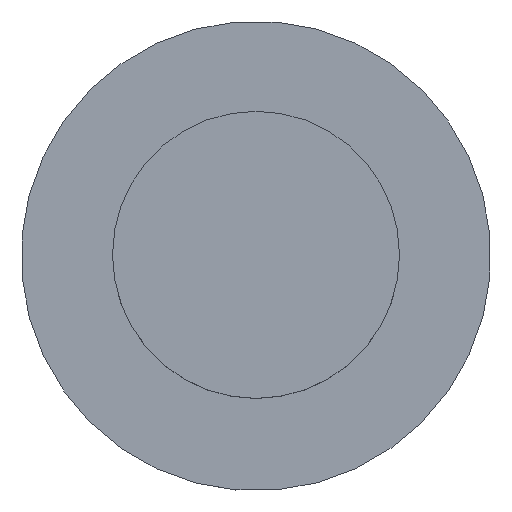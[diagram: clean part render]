
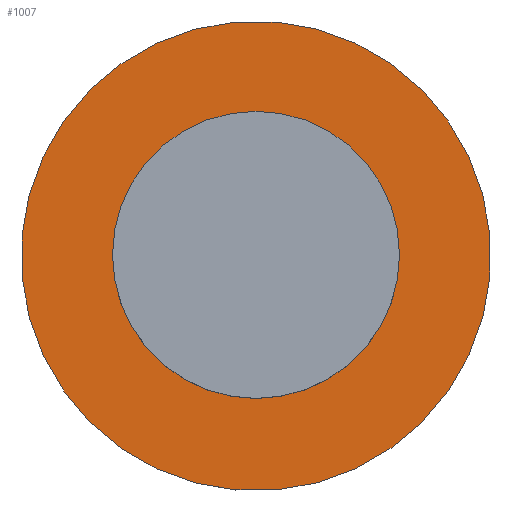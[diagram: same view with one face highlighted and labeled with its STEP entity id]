
A CAD part, top view. The second image highlights one B-rep face of the part: STEP entity #1007.
In plain terms, the highlighted planar face has unit normal (0, 0, 1).
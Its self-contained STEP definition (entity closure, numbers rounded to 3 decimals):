
#31=FACE_BOUND('',#170,.T.);
#49=PLANE('',#1152);
#103=FACE_OUTER_BOUND('',#169,.T.);
#169=EDGE_LOOP('',(#846));
#170=EDGE_LOOP('',(#847));
#364=CIRCLE('',#1150,13.);
#365=CIRCLE('',#1153,90.);
#458=VERTEX_POINT('',#1746);
#459=VERTEX_POINT('',#1752);
#588=EDGE_CURVE('',#458,#458,#364,.T.);
#590=EDGE_CURVE('',#459,#459,#365,.T.);
#846=ORIENTED_EDGE('',*,*,#590,.T.);
#847=ORIENTED_EDGE('',*,*,#588,.T.);
#1007=ADVANCED_FACE('',(#103,#31),#49,.T.);
#1150=AXIS2_PLACEMENT_3D('',#1748,#1452,#1453);
#1152=AXIS2_PLACEMENT_3D('',#1751,#1457,#1458);
#1153=AXIS2_PLACEMENT_3D('',#1753,#1459,#1460);
#1452=DIRECTION('center_axis',(0.,0.,-1.));
#1453=DIRECTION('ref_axis',(-1.,0.,0.));
#1457=DIRECTION('center_axis',(0.,0.,
1.));
#1458=DIRECTION('ref_axis',(-0.421,-0.907,0.));
#1459=DIRECTION('center_axis',(0.,0.,
1.));
#1460=DIRECTION('ref_axis',(0.907,-0.421,0.));
#1746=CARTESIAN_POINT('',(13.,0.,-113.4));
#1748=CARTESIAN_POINT('Origin',(0.,0.,-113.4));
#1751=CARTESIAN_POINT('Origin',(0.,0.,
-113.4));
#1752=CARTESIAN_POINT('',(-81.626,37.91,-113.4));
#1753=CARTESIAN_POINT('Origin',(0.,0.,
-113.4));
